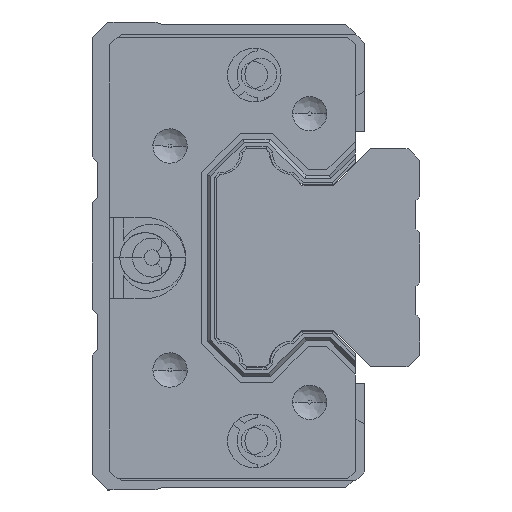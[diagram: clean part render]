
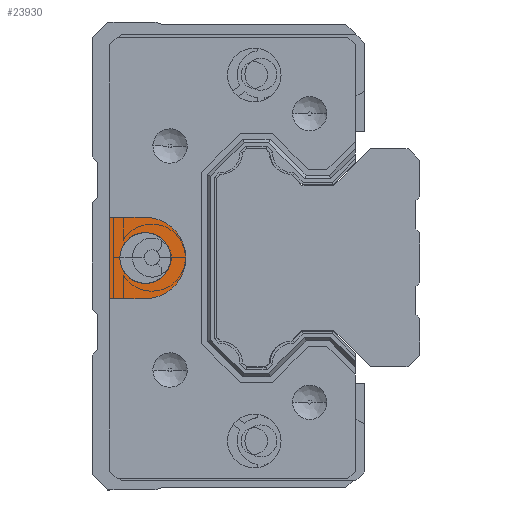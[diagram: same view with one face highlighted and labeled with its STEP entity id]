
A CAD part, left-side view. The second image highlights one B-rep face of the part: STEP entity #23930.
In plain terms, the highlighted planar face has unit normal (-1, 0, 0) as drawn and (1, 0, 0) by its records, which use the part's own axes.
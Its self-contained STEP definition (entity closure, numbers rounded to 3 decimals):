
#741 = CARTESIAN_POINT ( 'NONE',  ( 321.101, 39.57, 5.2 ) ) ;
#2047 = CARTESIAN_POINT ( 'NONE',  ( 321.101, 34.97, 5.2 ) ) ;
#2491 = FACE_BOUND ( 'NONE', #41760, .T. ) ;
#2718 = AXIS2_PLACEMENT_3D ( 'NONE', #55762, #34997, #60364 ) ;
#4214 = CARTESIAN_POINT ( 'NONE',  ( 321.101, 38.22, -0.001 ) ) ;
#5674 = VERTEX_POINT ( 'NONE', #741 ) ;
#5933 = AXIS2_PLACEMENT_3D ( 'NONE', #56846, #52001, #48711 ) ;
#7860 = CARTESIAN_POINT ( 'NONE',  ( 321.101, 29.712, 5.2 ) ) ;
#9087 = VERTEX_POINT ( 'NONE', #64488 ) ;
#10344 = VERTEX_POINT ( 'NONE', #4214 ) ;
#10807 = CARTESIAN_POINT ( 'NONE',  ( 321.101, 38.222, 6.499 ) ) ;
#12039 = ORIENTED_EDGE ( 'NONE', *, *, #16426, .T. ) ;
#15656 = CARTESIAN_POINT ( 'NONE',  ( 321.101, 31.72, 0.001 ) ) ;
#16426 = EDGE_CURVE ( 'NONE', #10344, #35232, #58398, .T. ) ;
#19465 = ORIENTED_EDGE ( 'NONE', *, *, #49615, .T. ) ;
#19534 = EDGE_LOOP ( 'NONE', ( #41470, #59705, #22666, #58671 ) ) ;
#20824 = EDGE_CURVE ( 'NONE', #41422, #5674, #45031, .T. ) ;
#22276 = VECTOR ( 'NONE', #55452, 1000. ) ;
#22666 = ORIENTED_EDGE ( 'NONE', *, *, #20824, .T. ) ;
#22995 = DIRECTION ( 'NONE',  ( 0., -1., 0. ) ) ;
#23930 = ADVANCED_FACE ( 'NONE', ( #2491, #27551 ), #50716, .T. ) ;
#25486 = CARTESIAN_POINT ( 'NONE',  ( 321.101, 31.722, 6.501 ) ) ;
#27336 = EDGE_CURVE ( 'NONE', #5674, #28428, #54010, .T. ) ;
#27551 = FACE_OUTER_BOUND ( 'NONE', #19534, .T. ) ;
#28428 = VERTEX_POINT ( 'NONE', #2047 ) ;
#33692 = CARTESIAN_POINT ( 'NONE',  ( 321.1, 29.712, -5.2 ) ) ;
#34334 = CIRCLE ( 'NONE', #5933, 5.2 ) ;
#34997 = DIRECTION ( 'NONE',  ( 1., 0., 0. ) ) ;
#35232 = VERTEX_POINT ( 'NONE', #36214 ) ;
#35580 = VECTOR ( 'NONE', #43751, 1000. ) ;
#36214 = CARTESIAN_POINT ( 'NONE',  ( 321.101, 31.72, 0.001 ) ) ;
#36460 =( BOUNDED_CURVE ( )  B_SPLINE_CURVE ( 3, ( #15656, #25486, #10807, #50228 ),
 .UNSPECIFIED., .F., .F. ) 
 B_SPLINE_CURVE_WITH_KNOTS ( ( 4, 4 ),
 ( -0.005, 0.005 ),
 .UNSPECIFIED. ) 
 CURVE ( )  GEOMETRIC_REPRESENTATION_ITEM ( )  RATIONAL_B_SPLINE_CURVE ( ( 1., 0.333, 0.333, 1. ) ) 
 REPRESENTATION_ITEM ( '' )  );
#41422 = VERTEX_POINT ( 'NONE', #56521 ) ;
#41470 = ORIENTED_EDGE ( 'NONE', *, *, #55031, .T. ) ;
#41760 = EDGE_LOOP ( 'NONE', ( #19465, #12039 ) ) ;
#43638 = CARTESIAN_POINT ( 'NONE',  ( 321.101, 31.72, 0.001 ) ) ;
#43751 = DIRECTION ( 'NONE',  ( 0., 1., 0. ) ) ;
#44741 = CARTESIAN_POINT ( 'NONE',  ( 321.1, 31.718, -6.499 ) ) ;
#45031 = LINE ( 'NONE', #50420, #22276 ) ;
#48711 = DIRECTION ( 'NONE',  ( 0., 0., 1. ) ) ;
#49296 = VECTOR ( 'NONE', #22995, 1000. ) ;
#49615 = EDGE_CURVE ( 'NONE', #35232, #10344, #36460, .T. ) ;
#49972 = CARTESIAN_POINT ( 'NONE',  ( 321.1, 38.218, -6.501 ) ) ;
#50228 = CARTESIAN_POINT ( 'NONE',  ( 321.101, 38.22, -0.001 ) ) ;
#50420 = CARTESIAN_POINT ( 'NONE',  ( 321.1, 39.57, -5.2 ) ) ;
#50716 = PLANE ( 'NONE',  #2718 ) ;
#52001 = DIRECTION ( 'NONE',  ( 1., 0., 0. ) ) ;
#54010 = LINE ( 'NONE', #7860, #49296 ) ;
#55007 = CARTESIAN_POINT ( 'NONE',  ( 321.101, 38.22, -0.001 ) ) ;
#55031 = EDGE_CURVE ( 'NONE', #28428, #9087, #34334, .T. ) ;
#55452 = DIRECTION ( 'NONE',  ( 0., 0., 1. ) ) ;
#55762 = CARTESIAN_POINT ( 'NONE',  ( 321.101, 29.712, 5.265 ) ) ;
#56123 = EDGE_CURVE ( 'NONE', #9087, #41422, #56730, .T. ) ;
#56521 = CARTESIAN_POINT ( 'NONE',  ( 321.1, 39.57, -5.2 ) ) ;
#56730 = LINE ( 'NONE', #33692, #35580 ) ;
#56846 = CARTESIAN_POINT ( 'NONE',  ( 321.101, 34.97, 0. ) ) ;
#58398 =( BOUNDED_CURVE ( )  B_SPLINE_CURVE ( 3, ( #55007, #49972, #44741, #43638 ),
 .UNSPECIFIED., .F., .F. ) 
 B_SPLINE_CURVE_WITH_KNOTS ( ( 4, 4 ),
 ( -0.005, 0.005 ),
 .UNSPECIFIED. ) 
 CURVE ( )  GEOMETRIC_REPRESENTATION_ITEM ( )  RATIONAL_B_SPLINE_CURVE ( ( 1., 0.333, 0.333, 1. ) ) 
 REPRESENTATION_ITEM ( '' )  );
#58671 = ORIENTED_EDGE ( 'NONE', *, *, #27336, .T. ) ;
#59705 = ORIENTED_EDGE ( 'NONE', *, *, #56123, .T. ) ;
#60364 = DIRECTION ( 'NONE',  ( 0., 0., -1. ) ) ;
#64488 = CARTESIAN_POINT ( 'NONE',  ( 321.1, 34.97, -5.2 ) ) ;
